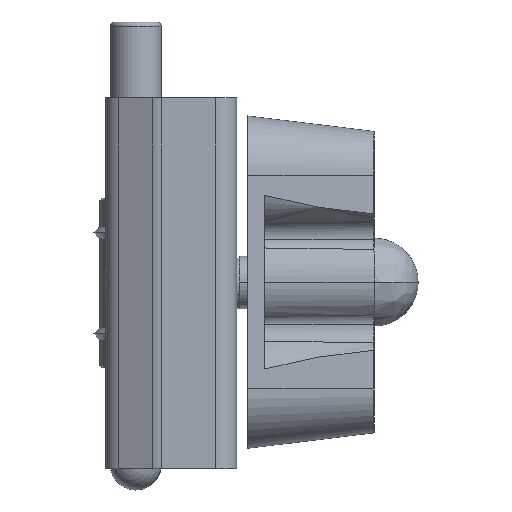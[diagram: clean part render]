
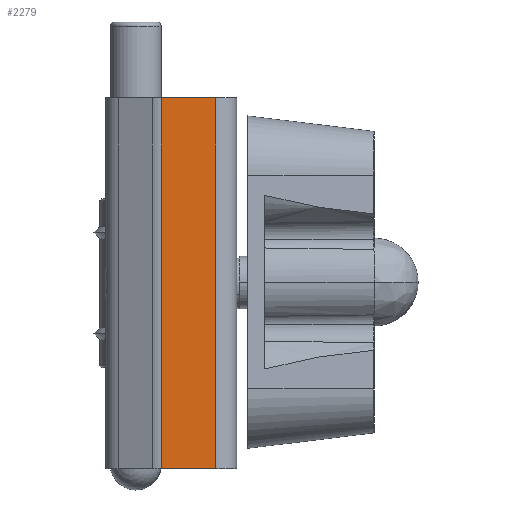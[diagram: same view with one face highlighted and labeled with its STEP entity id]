
A CAD part, front view. The second image highlights one B-rep face of the part: STEP entity #2279.
In plain terms, the highlighted planar face has unit normal (0, -1, 0) as drawn and (-1, 0, 0) by its records, which use the part's own axes.
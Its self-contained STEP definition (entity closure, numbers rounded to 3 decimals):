
#2255 = ORIENTED_EDGE ( 'NONE', *, *, #2256, .F. ) ;
#2256 = EDGE_CURVE ( 'NONE', #2356, #2257, #7590, .T. ) ;
#2257 = VERTEX_POINT ( 'NONE', #7586 ) ;
#2258 = ORIENTED_EDGE ( 'NONE', *, *, #2278, .F. ) ;
#2259 = ORIENTED_EDGE ( 'NONE', *, *, #2260, .T. ) ;
#2260 = EDGE_CURVE ( 'NONE', #2295, #2261, #7585, .T. ) ;
#2261 = VERTEX_POINT ( 'NONE', #7581 ) ;
#2262 = ORIENTED_EDGE ( 'NONE', *, *, #2263, .T. ) ;
#2263 = EDGE_CURVE ( 'NONE', #2261, #2257, #7481, .T. ) ;
#2278 = EDGE_CURVE ( 'NONE', #2295, #2356, #7749, .T. ) ;
#2279 = ADVANCED_FACE ( 'NONE', ( #7906 ), #7904, .T. ) ;
#2280 = EDGE_LOOP ( 'NONE', ( #2255, #2258, #2259, #2262 ) ) ;
#2295 = VERTEX_POINT ( 'NONE', #7889 ) ;
#2356 = VERTEX_POINT ( 'NONE', #7709 ) ;
#7478 = DIRECTION ( 'NONE',  ( 0., 0., -1. ) ) ;
#7479 = VECTOR ( 'NONE', #7478, 1000. ) ;
#7480 = CARTESIAN_POINT ( 'NONE',  ( -14.5, 8.946, 44. ) ) ;
#7481 = LINE ( 'NONE', #7480, #7479 ) ;
#7581 = CARTESIAN_POINT ( 'NONE',  ( -14.5, 8.946, 44. ) ) ;
#7582 = DIRECTION ( 'NONE',  ( 0., 1., 0. ) ) ;
#7583 = VECTOR ( 'NONE', #7582, 1000. ) ;
#7584 = CARTESIAN_POINT ( 'NONE',  ( -14.5, 0., 44. ) ) ;
#7585 = LINE ( 'NONE', #7584, #7583 ) ;
#7586 = CARTESIAN_POINT ( 'NONE',  ( -14.5, 8.946, 0. ) ) ;
#7587 = DIRECTION ( 'NONE',  ( 0., 1., 0. ) ) ;
#7588 = VECTOR ( 'NONE', #7587, 1000. ) ;
#7589 = CARTESIAN_POINT ( 'NONE',  ( -14.5, 0., 0. ) ) ;
#7590 = LINE ( 'NONE', #7589, #7588 ) ;
#7709 = CARTESIAN_POINT ( 'NONE',  ( -14.5, 2.5, 0. ) ) ;
#7748 = CARTESIAN_POINT ( 'NONE',  ( -14.5, 2.5, 44. ) ) ;
#7749 = LINE ( 'NONE', #7748, #7908 ) ;
#7889 = CARTESIAN_POINT ( 'NONE',  ( -14.5, 2.5, 44. ) ) ;
#7904 = PLANE ( 'NONE',  #7905 ) ;
#7905 = AXIS2_PLACEMENT_3D ( 'NONE', #7915, #7914, #7913 ) ;
#7906 = FACE_OUTER_BOUND ( 'NONE', #2280, .T. ) ;
#7907 = DIRECTION ( 'NONE',  ( 0., 0., -1. ) ) ;
#7908 = VECTOR ( 'NONE', #7907, 1000. ) ;
#7913 = DIRECTION ( 'NONE',  ( 0., 0., 1. ) ) ;
#7914 = DIRECTION ( 'NONE',  ( -1., 0., 0. ) ) ;
#7915 = CARTESIAN_POINT ( 'NONE',  ( -14.5, 0., 44. ) ) ;
